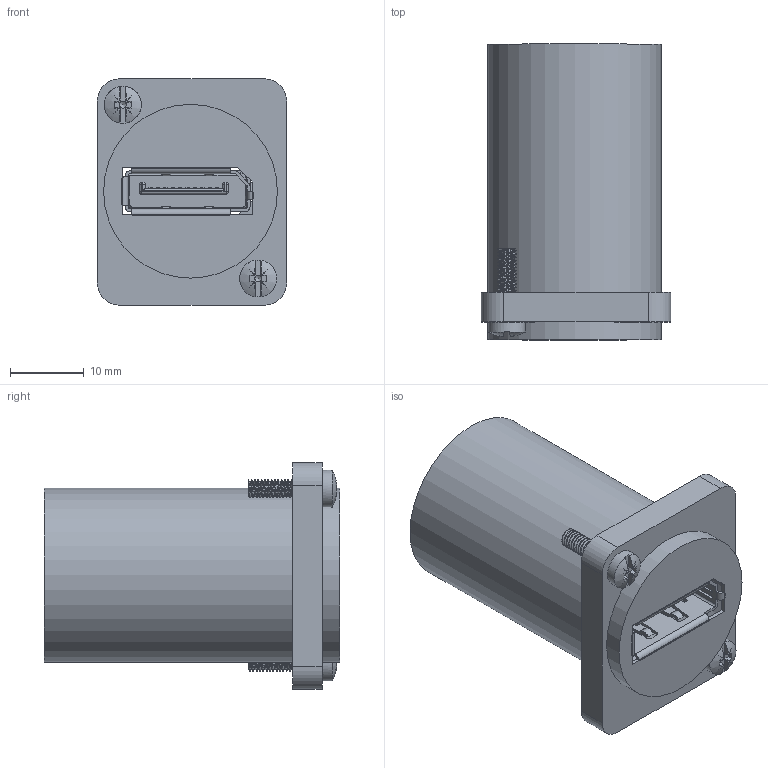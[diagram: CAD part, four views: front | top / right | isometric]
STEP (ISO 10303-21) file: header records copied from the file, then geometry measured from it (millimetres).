
FILE_DESCRIPTION(('FreeCAD Model'),'2;1');
FILE_NAME('Open CASCADE Shape Model','2024-03-07T13:52:22',(''),(''), 'Open CASCADE STEP processor 7.6','FreeCAD','Unknown');
FILE_SCHEMA(('AUTOMOTIVE_DESIGN { 1 0 10303 214 1 1 1 1 }'));
Length unit declared in the file: millimetre
Products named in the file (6): Unnamed; 49151_Connector; Schraube M2,5x10#001; C-2041441-002; C-2041441-001; Schraube M2,5x10#002
Assembly tree (5 placements, depth 2):
  Unnamed
    49151_Connector
    Schraube M2,5x10#001
    C-2041441-002
    C-2041441-001
    Schraube M2,5x10#002
Bounding box: 25.6 x 40 x 30.6 mm (x, y, z)
Volume: 4790.9 mm3; surface area: 12014.8 mm2
Topology: 5 solids, 5 shells, 1243 faces, 3507 edges, 2308 vertices
Faces by surface type: plane 798, cylinder 415, sphere 16, bspline 6, cone 6, torus 2
Full cylindrical faces by diameter (mm): 2.5 x2, 5 x2, 22.5 x1, 23.5 x2
Entity records: 91001 total; most frequent: CARTESIAN_POINT 58870, ORIENTED_EDGE 7010, DIRECTION 6275, EDGE_CURVE 3505, LINE 2533, VECTOR 2533, VERTEX_POINT 2308, AXIS2_PLACEMENT_3D 1871
